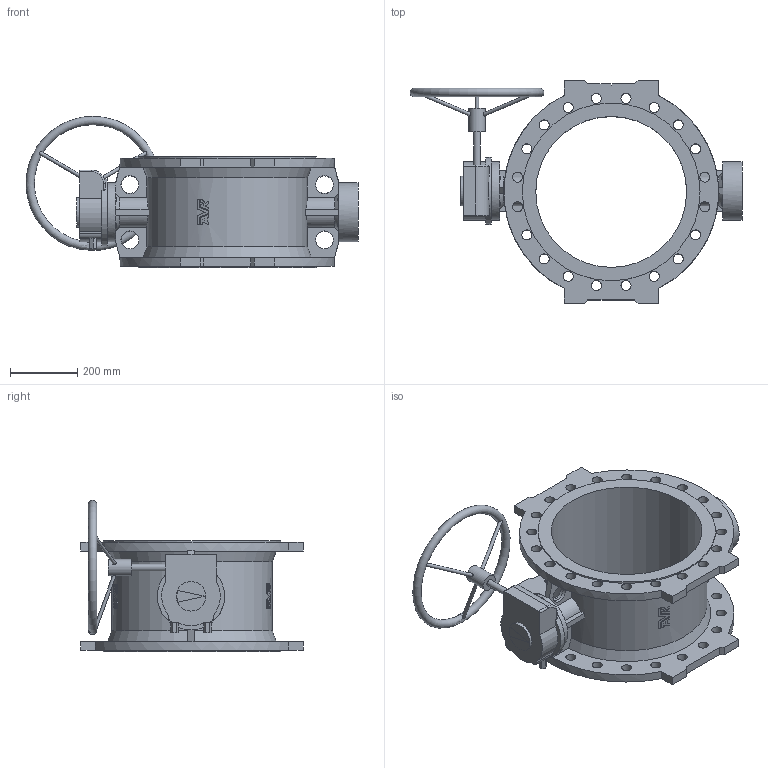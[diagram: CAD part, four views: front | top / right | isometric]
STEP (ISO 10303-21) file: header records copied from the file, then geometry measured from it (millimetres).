
FILE_DESCRIPTION (( 'STEP AP203' ), '1' );
FILE_NAME ('O_756_1_DN450_0XX00_AA0_step.step', '2016-03-04T11:45:25', ( 'Windows User' ), ( 'AVK' ), 'SwSTEP 2.0', 'SolidWorks 2012', '' );
FILE_SCHEMA (( 'CONFIG_CONTROL_DESIGN' ));
Length unit declared in the file: millimetre
Products named in the file (1): O_756_1_DN450_0XX00_AA0_step
Bounding box: 989.9 x 664 x 451 mm (x, y, z)
Volume: 22229022.5 mm3; surface area: 2094306.1 mm2
Topology: 1 solids, 1 shells, 369 faces, 1088 edges, 736 vertices
Faces by surface type: plane 175, cylinder 93, bspline 78, cone 20, torus 3
Full cylindrical faces by diameter (mm): 10 x3, 20 x1, 30 x40, 50 x1, 88 x1, 175 x2, 200 x1, 450 x1, 530 x2
Entity records: 16725 total; most frequent: CARTESIAN_POINT 7731, ORIENTED_EDGE 1964, DIRECTION 1501, EDGE_CURVE 982, VERTEX_POINT 691, EDGE_LOOP 539, AXIS2_PLACEMENT_3D 508, VECTOR 485
